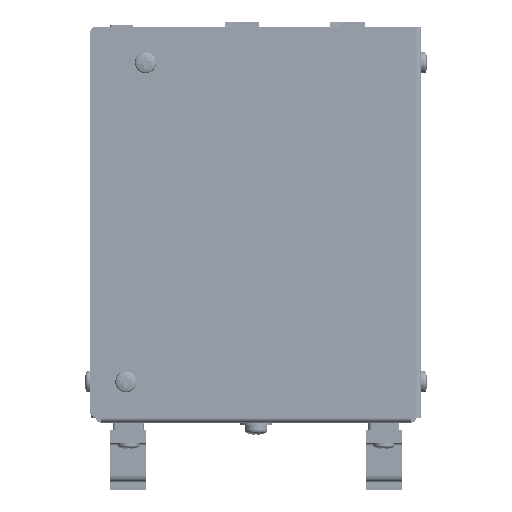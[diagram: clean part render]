
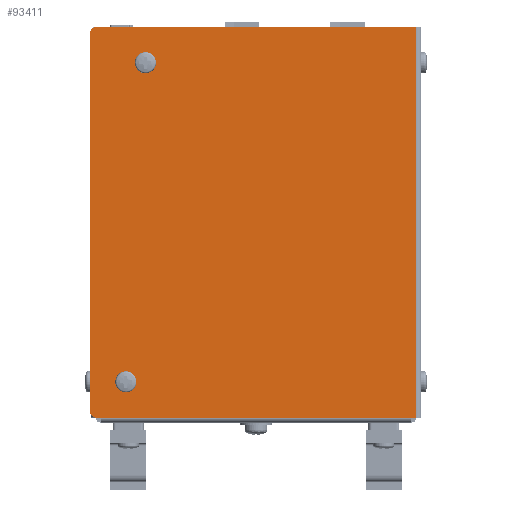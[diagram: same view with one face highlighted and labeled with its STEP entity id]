
A CAD part, front view. The second image highlights one B-rep face of the part: STEP entity #93411.
In plain terms, the highlighted planar face has unit normal (0, -1, 0).
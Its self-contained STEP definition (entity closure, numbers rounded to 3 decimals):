
#1543 = DIRECTION ( 'NONE',  ( 0., 0., 1. ) ) ;
#6842 = LINE ( 'NONE', #144446, #498174 ) ;
#20411 = ORIENTED_EDGE ( 'NONE', *, *, #297612, .T. ) ;
#20763 = DIRECTION ( 'NONE',  ( 0., -1., 0. ) ) ;
#35024 = EDGE_CURVE ( 'NONE', #113073, #130052, #111623, .T. ) ;
#35468 = FACE_BOUND ( 'NONE', #497826, .T. ) ;
#42691 = CIRCLE ( 'NONE', #357984, 1.75 ) ;
#46833 = EDGE_CURVE ( 'NONE', #130052, #288519, #384322, .T. ) ;
#57805 = CARTESIAN_POINT ( 'NONE',  ( -39.951, -61.313, 27.445 ) ) ;
#61177 = DIRECTION ( 'NONE',  ( 0., 1., 0. ) ) ;
#64900 = VERTEX_POINT ( 'NONE', #515903 ) ;
#67827 = VECTOR ( 'NONE', #172528, 1000. ) ;
#86239 = PLANE ( 'NONE',  #480699 ) ;
#87737 = AXIS2_PLACEMENT_3D ( 'NONE', #142148, #61177, #1543 ) ;
#88268 = DIRECTION ( 'NONE',  ( 0., 0., 1. ) ) ;
#93411 = ADVANCED_FACE ( 'NONE', ( #442464, #35468, #589142 ), #86239, .T. ) ;
#93844 = EDGE_CURVE ( 'NONE', #325622, #340591, #127767, .T. ) ;
#96592 = DIRECTION ( 'NONE',  ( 0., 0., -1. ) ) ;
#105688 = DIRECTION ( 'NONE',  ( -1., 0., 0. ) ) ;
#110166 = ORIENTED_EDGE ( 'NONE', *, *, #548709, .T. ) ;
#111623 = LINE ( 'NONE', #569592, #409655 ) ;
#113073 = VERTEX_POINT ( 'NONE', #391030 ) ;
#126221 = AXIS2_PLACEMENT_3D ( 'NONE', #281951, #20763, #464594 ) ;
#127767 = CIRCLE ( 'NONE', #558057, 2. ) ;
#130052 = VERTEX_POINT ( 'NONE', #517039 ) ;
#134065 = DIRECTION ( 'NONE',  ( 0., -1., 0. ) ) ;
#141196 = LINE ( 'NONE', #545388, #268578 ) ;
#142148 = CARTESIAN_POINT ( 'NONE',  ( -39.951, -61.313, 27.445 ) ) ;
#144446 = CARTESIAN_POINT ( 'NONE',  ( -50.951, -61.313, -134.322 ) ) ;
#147324 = ORIENTED_EDGE ( 'NONE', *, *, #35024, .T. ) ;
#159155 = CARTESIAN_POINT ( 'NONE',  ( -48.951, -61.313, 16.445 ) ) ;
#172528 = DIRECTION ( 'NONE',  ( 0., 0., -1. ) ) ;
#178581 = ORIENTED_EDGE ( 'NONE', *, *, #437909, .T. ) ;
#178976 = CARTESIAN_POINT ( 'NONE',  ( 32.749, -61.313, -134.322 ) ) ;
#185246 = CARTESIAN_POINT ( 'NONE',  ( -50.951, -61.313, 18.445 ) ) ;
#194806 = EDGE_CURVE ( 'NONE', #288519, #325622, #6842, .T. ) ;
#200404 = CARTESIAN_POINT ( 'NONE',  ( -33.951, -61.313, 127.195 ) ) ;
#207117 = VERTEX_POINT ( 'NONE', #393187 ) ;
#236678 = CARTESIAN_POINT ( 'NONE',  ( 49.249, -61.313, 16.445 ) ) ;
#240349 = DIRECTION ( 'NONE',  ( 0., 1., 0. ) ) ;
#248153 = VERTEX_POINT ( 'NONE', #236678 ) ;
#268578 = VECTOR ( 'NONE', #544336, 1000. ) ;
#281951 = CARTESIAN_POINT ( 'NONE',  ( -48.951, -61.313, 134.445 ) ) ;
#288519 = VERTEX_POINT ( 'NONE', #370234 ) ;
#291865 = ORIENTED_EDGE ( 'NONE', *, *, #477662, .F. ) ;
#297612 = EDGE_CURVE ( 'NONE', #64900, #433593, #42691, .T. ) ;
#297988 = ORIENTED_EDGE ( 'NONE', *, *, #46833, .T. ) ;
#315549 = CARTESIAN_POINT ( 'NONE',  ( -33.951, -61.313, 125.445 ) ) ;
#316496 = DIRECTION ( 'NONE',  ( 1., 0., 0. ) ) ;
#325622 = VERTEX_POINT ( 'NONE', #185246 ) ;
#330035 = DIRECTION ( 'NONE',  ( 0., 0., 1. ) ) ;
#333477 = DIRECTION ( 'NONE',  ( 0., -1., 0. ) ) ;
#334698 = ORIENTED_EDGE ( 'NONE', *, *, #194806, .T. ) ;
#339376 = CARTESIAN_POINT ( 'NONE',  ( -48.951, -61.313, 18.445 ) ) ;
#340591 = VERTEX_POINT ( 'NONE', #159155 ) ;
#343797 = VERTEX_POINT ( 'NONE', #564629 ) ;
#352008 = EDGE_LOOP ( 'NONE', ( #110166, #20411 ) ) ;
#357984 = AXIS2_PLACEMENT_3D ( 'NONE', #315549, #498216, #88268 ) ;
#360394 = ORIENTED_EDGE ( 'NONE', *, *, #452243, .F. ) ;
#365289 = CIRCLE ( 'NONE', #507560, 1.75 ) ;
#370234 = CARTESIAN_POINT ( 'NONE',  ( -50.951, -61.313, 134.445 ) ) ;
#384322 = CIRCLE ( 'NONE', #126221, 2. ) ;
#391030 = CARTESIAN_POINT ( 'NONE',  ( 49.249, -61.313, 136.445 ) ) ;
#393187 = CARTESIAN_POINT ( 'NONE',  ( -39.951, -61.313, 25.695 ) ) ;
#393572 = CIRCLE ( 'NONE', #87737, 1.75 ) ;
#409655 = VECTOR ( 'NONE', #105688, 1000. ) ;
#433593 = VERTEX_POINT ( 'NONE', #200404 ) ;
#437909 = EDGE_CURVE ( 'NONE', #343797, #207117, #463602, .T. ) ;
#442464 = FACE_BOUND ( 'NONE', #352008, .T. ) ;
#452243 = EDGE_CURVE ( 'NONE', #113073, #248153, #531757, .T. ) ;
#462222 = EDGE_LOOP ( 'NONE', ( #147324, #297988, #334698, #553270, #291865, #360394 ) ) ;
#463602 = CIRCLE ( 'NONE', #473000, 1.75 ) ;
#464594 = DIRECTION ( 'NONE',  ( 0., 0., -1. ) ) ;
#473000 = AXIS2_PLACEMENT_3D ( 'NONE', #57805, #240349, #330035 ) ;
#477662 = EDGE_CURVE ( 'NONE', #248153, #340591, #141196, .T. ) ;
#480699 = AXIS2_PLACEMENT_3D ( 'NONE', #178976, #134065, #316496 ) ;
#486503 = DIRECTION ( 'NONE',  ( 0., 1., 0. ) ) ;
#495642 = CARTESIAN_POINT ( 'NONE',  ( 49.249, -61.313, -134.322 ) ) ;
#497826 = EDGE_LOOP ( 'NONE', ( #178581, #532093 ) ) ;
#498174 = VECTOR ( 'NONE', #96592, 1000. ) ;
#498216 = DIRECTION ( 'NONE',  ( 0., 1., 0. ) ) ;
#498320 = DIRECTION ( 'NONE',  ( 0., 0., 1. ) ) ;
#507560 = AXIS2_PLACEMENT_3D ( 'NONE', #567656, #486503, #498320 ) ;
#515903 = CARTESIAN_POINT ( 'NONE',  ( -33.951, -61.313, 123.695 ) ) ;
#517039 = CARTESIAN_POINT ( 'NONE',  ( -48.951, -61.313, 136.445 ) ) ;
#522071 = DIRECTION ( 'NONE',  ( 0., 0., 1. ) ) ;
#531757 = LINE ( 'NONE', #495642, #67827 ) ;
#532093 = ORIENTED_EDGE ( 'NONE', *, *, #585807, .T. ) ;
#544336 = DIRECTION ( 'NONE',  ( -1., 0., 0. ) ) ;
#545388 = CARTESIAN_POINT ( 'NONE',  ( -8.451, -61.313, 16.445 ) ) ;
#548709 = EDGE_CURVE ( 'NONE', #433593, #64900, #365289, .T. ) ;
#553270 = ORIENTED_EDGE ( 'NONE', *, *, #93844, .T. ) ;
#558057 = AXIS2_PLACEMENT_3D ( 'NONE', #339376, #333477, #522071 ) ;
#564629 = CARTESIAN_POINT ( 'NONE',  ( -39.951, -61.313, 29.195 ) ) ;
#567656 = CARTESIAN_POINT ( 'NONE',  ( -33.951, -61.313, 125.445 ) ) ;
#569592 = CARTESIAN_POINT ( 'NONE',  ( -9.951, -61.313, 136.445 ) ) ;
#585807 = EDGE_CURVE ( 'NONE', #207117, #343797, #393572, .T. ) ;
#589142 = FACE_OUTER_BOUND ( 'NONE', #462222, .T. ) ;
